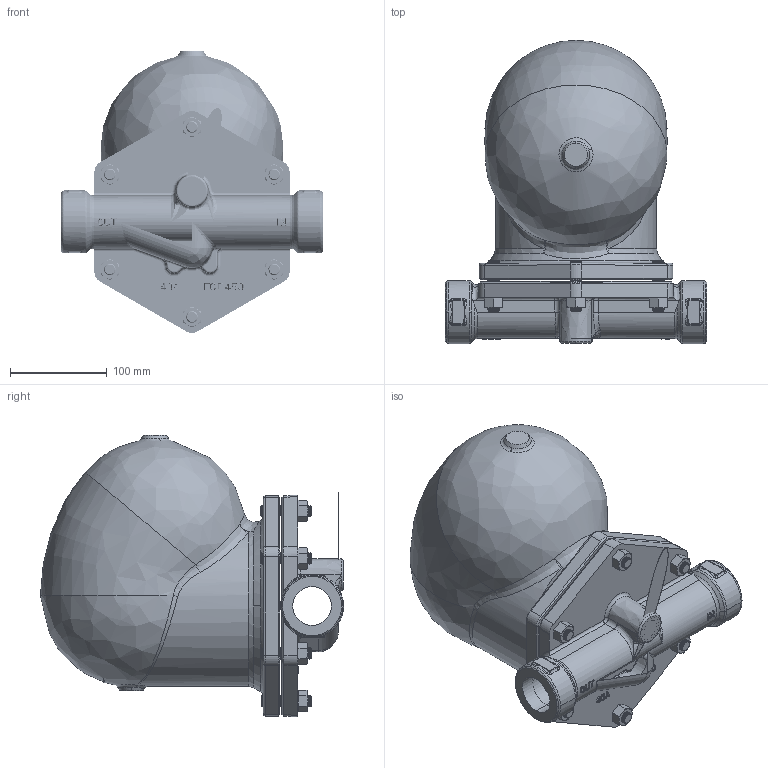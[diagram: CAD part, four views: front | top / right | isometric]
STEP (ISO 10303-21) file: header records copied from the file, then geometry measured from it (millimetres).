
FILE_DESCRIPTION( (''), '2;1');
FILE_NAME ('PC1027.12188.TSF-13 JIS Rc,NPT 40A_17263.stp','2025-07-31T14:55:18',(''),(''),'spGate 20.6.3 (****-****-****-****)','','');
FILE_SCHEMA (('AUTOMOTIVE_DESIGN'));
Length unit declared in the file: millimetre
Products named in the file (8): Assembly; JIS Rc 40A_M1; JIS Rc 40A_M2; JIS Rc 40A_M3; TSF-13F  40A.stp_M1; TSF-13F  40A.stp_M2; TSF-13F  40A.stp_M3; 銅ガス
Assembly tree (17 placements, depth 2):
  Assembly
    JIS Rc 40A_M1
    JIS Rc 40A_M2
    JIS Rc 40A_M3
    TSF-13F  40A.stp_M1
    TSF-13F  40A.stp_M2  x6
    TSF-13F  40A.stp_M3  x6
    銅ガス
Bounding box: 270 x 313 x 290.83 mm (x, y, z)
Volume: 8231502.1 mm3; surface area: 406016.1 mm2
Topology: 17 solids, 17 shells, 1092 faces, 4160 edges, 3058 vertices
Faces by surface type: bspline 510, cylinder 357, plane 225
Entity records: 67992 total; most frequent: CARTESIAN_POINT 32710, ORIENTED_EDGE 5246, COLOUR_RGB 3322, PRESENTATION_STYLE_ASSIGNMENT 3322, STYLED_ITEM 3322, EDGE_CURVE 2623, DRAUGHTING_PRE_DEFINED_CURVE_FONT 2623, CURVE_STYLE 2623
